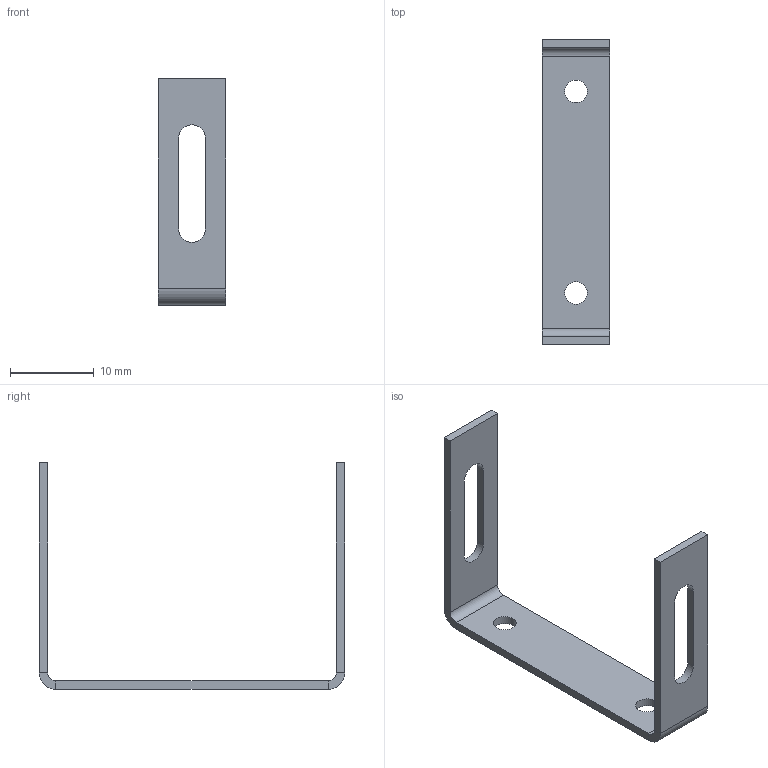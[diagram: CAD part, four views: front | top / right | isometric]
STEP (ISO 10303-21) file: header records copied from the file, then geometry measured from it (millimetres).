
FILE_DESCRIPTION(/* description */ (''),/* implementation_level */ '2;1');
FILE_NAME(/* name */ 'PDB-04-402_Battery_Retention_Cradle_R01.step',/* time_stamp */ '2026-11-24T01:50:39+05:00',/* author */ (''),/* organization */ (''),/* preprocessor_version */ 'ST-DEVELOPER v20.2',/* originating_system */ 'Autodesk Translation Framework v15.17.0.0',/* authorisation */ '');
FILE_SCHEMA (('AUTOMOTIVE_DESIGN { 1 0 10303 214 3 1 1 }'));
Length unit declared in the file: centimetre
Products named in the file (1): 2026-11-24-01-50-39-572
Bounding box: 8 x 36.4 x 27 mm (x, y, z)
Volume: 600.2 mm3; surface area: 1471 mm2
Topology: 1 solids, 1 shells, 32 faces, 74 edges, 44 vertices
Faces by surface type: plane 22, cylinder 10
Full cylindrical faces by diameter (mm): 2.7 x2
Entity records: 939 total; most frequent: DIRECTION 160, CARTESIAN_POINT 151, ORIENTED_EDGE 148, EDGE_CURVE 74, LINE 54, VECTOR 54, AXIS2_PLACEMENT_3D 53, VERTEX_POINT 44
